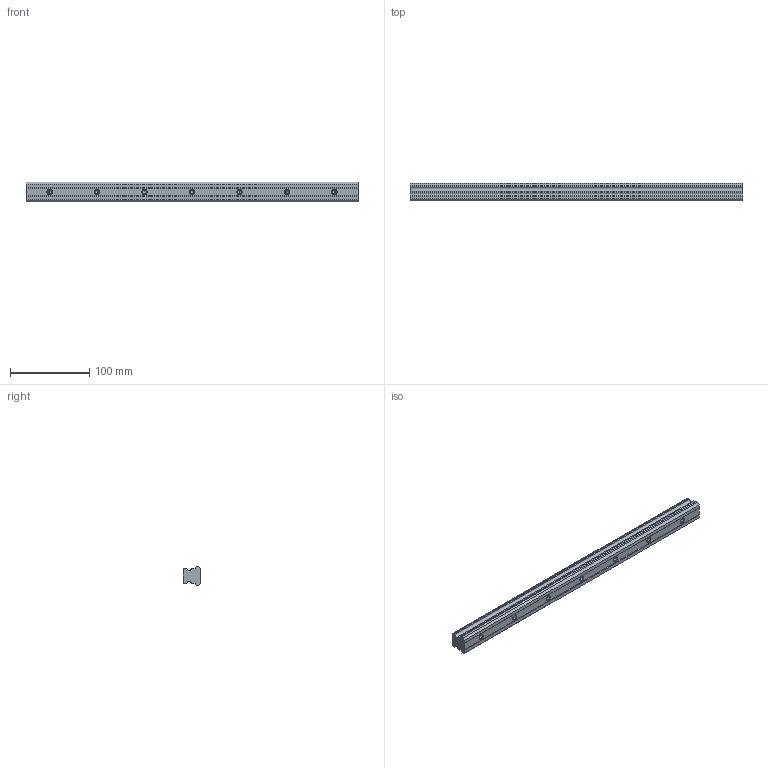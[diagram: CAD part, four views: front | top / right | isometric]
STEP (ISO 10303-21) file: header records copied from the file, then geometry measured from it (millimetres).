
FILE_DESCRIPTION (( 'STEP AP203' ), '1' );
FILE_NAME ('L1018.25R-0420.step', '2023-08-06T10:32:57', ( '' ), ( '' ), 'SwSTEP 2.0', 'SolidWorks 2019', '' );
FILE_SCHEMA (( 'CONFIG_CONTROL_DESIGN' ));
Length unit declared in the file: millimetre
Products named in the file (1): L1018.25R-0420
Bounding box: 420 x 21.8 x 25 mm (x, y, z)
Volume: 174673 mm3; surface area: 42551 mm2
Topology: 1 solids, 1 shells, 92 faces, 221 edges, 131 vertices
Faces by surface type: plane 33, cylinder 31, cone 28
Entity records: 2636 total; most frequent: DIRECTION 469, CARTESIAN_POINT 431, ORIENTED_EDGE 414, EDGE_CURVE 207, AXIS2_PLACEMENT_3D 169, VERTEX_POINT 131, LINE 131, VECTOR 131
